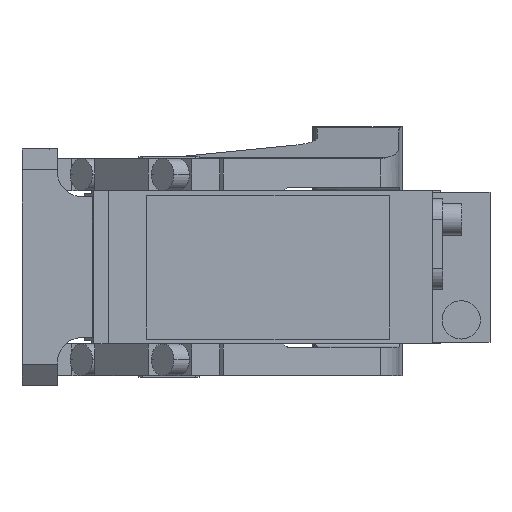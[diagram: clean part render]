
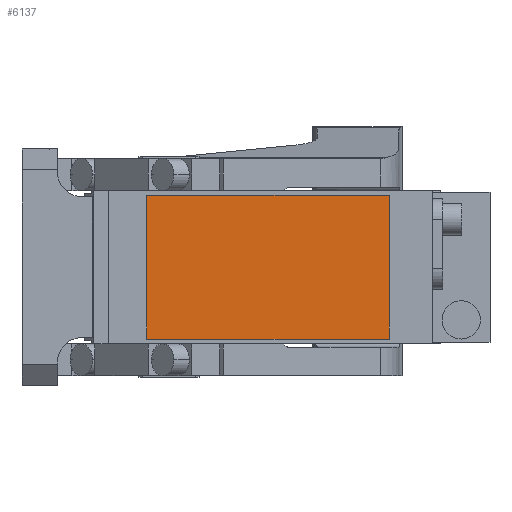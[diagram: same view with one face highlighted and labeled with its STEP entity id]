
A CAD part, front view. The second image highlights one B-rep face of the part: STEP entity #6137.
In plain terms, the highlighted planar face has unit normal (0, -1, 0).
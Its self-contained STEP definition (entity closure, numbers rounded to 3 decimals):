
#350 = EDGE_LOOP ( 'NONE', ( #11375, #763, #1675, #4421 ) ) ;
#506 = VERTEX_POINT ( 'NONE', #8158 ) ;
#763 = ORIENTED_EDGE ( 'NONE', *, *, #8077, .T. ) ;
#944 = CARTESIAN_POINT ( 'NONE',  ( -7., -280.5, 22.5 ) ) ;
#1436 = LINE ( 'NONE', #13351, #10234 ) ;
#1471 = FACE_OUTER_BOUND ( 'NONE', #350, .T. ) ;
#1675 = ORIENTED_EDGE ( 'NONE', *, *, #12717, .T. ) ;
#1865 = VERTEX_POINT ( 'NONE', #8589 ) ;
#2503 = DIRECTION ( 'NONE',  ( 1., 0., 0. ) ) ;
#2558 = EDGE_CURVE ( 'NONE', #506, #14823, #4866, .T. ) ;
#3859 = PLANE ( 'NONE',  #13586 ) ;
#3903 = DIRECTION ( 'NONE',  ( 0., 0., -1. ) ) ;
#4421 = ORIENTED_EDGE ( 'NONE', *, *, #2558, .T. ) ;
#4532 = VERTEX_POINT ( 'NONE', #8224 ) ;
#4810 = VECTOR ( 'NONE', #11871, 1000. ) ;
#4866 = LINE ( 'NONE', #5101, #4810 ) ;
#5101 = CARTESIAN_POINT ( 'NONE',  ( -7., -280.5, 22.5 ) ) ;
#5158 = DIRECTION ( 'NONE',  ( 0., 0., -1. ) ) ;
#5237 = DIRECTION ( 'NONE',  ( 0., 0., 1. ) ) ;
#5900 = LINE ( 'NONE', #5967, #13454 ) ;
#5967 = CARTESIAN_POINT ( 'NONE',  ( -7., -280.5, -22.5 ) ) ;
#6137 = ADVANCED_FACE ( 'NONE', ( #1471 ), #3859, .T. ) ;
#8077 = EDGE_CURVE ( 'NONE', #1865, #4532, #5900, .T. ) ;
#8158 = CARTESIAN_POINT ( 'NONE',  ( 69., -280.5, 22.5 ) ) ;
#8224 = CARTESIAN_POINT ( 'NONE',  ( 69., -280.5, -22.5 ) ) ;
#8545 = CARTESIAN_POINT ( 'NONE',  ( 0., -280.5, 0. ) ) ;
#8589 = CARTESIAN_POINT ( 'NONE',  ( -7., -280.5, -22.5 ) ) ;
#9274 = EDGE_CURVE ( 'NONE', #14823, #1865, #1436, .T. ) ;
#9589 = VECTOR ( 'NONE', #5237, 1000. ) ;
#10234 = VECTOR ( 'NONE', #3903, 1000. ) ;
#11375 = ORIENTED_EDGE ( 'NONE', *, *, #9274, .T. ) ;
#11871 = DIRECTION ( 'NONE',  ( -1., 0., 0. ) ) ;
#12180 = LINE ( 'NONE', #14457, #9589 ) ;
#12717 = EDGE_CURVE ( 'NONE', #4532, #506, #12180, .T. ) ;
#13236 = DIRECTION ( 'NONE',  ( 0., -1., 0. ) ) ;
#13351 = CARTESIAN_POINT ( 'NONE',  ( -7., -280.5, 22.5 ) ) ;
#13454 = VECTOR ( 'NONE', #2503, 1000. ) ;
#13586 = AXIS2_PLACEMENT_3D ( 'NONE', #8545, #13236, #5158 ) ;
#14457 = CARTESIAN_POINT ( 'NONE',  ( 69., -280.5, 22.5 ) ) ;
#14823 = VERTEX_POINT ( 'NONE', #944 ) ;
